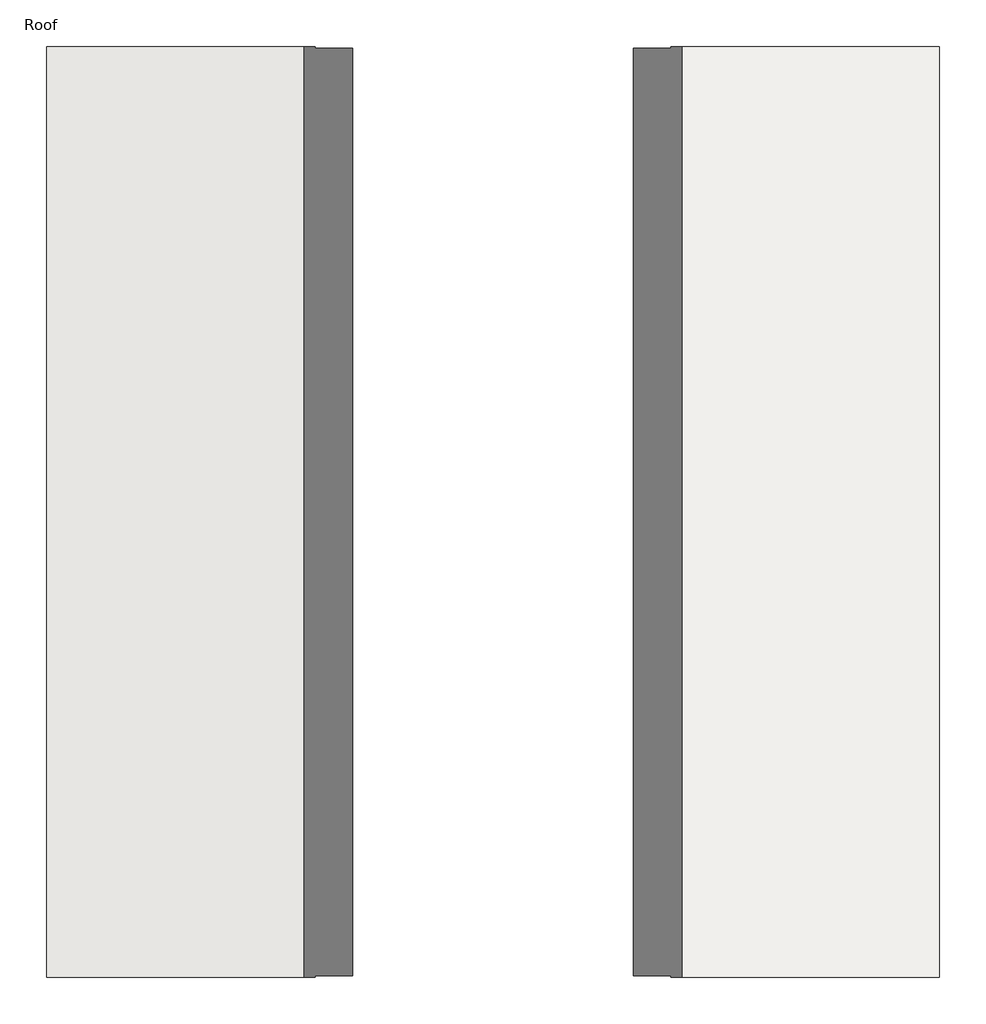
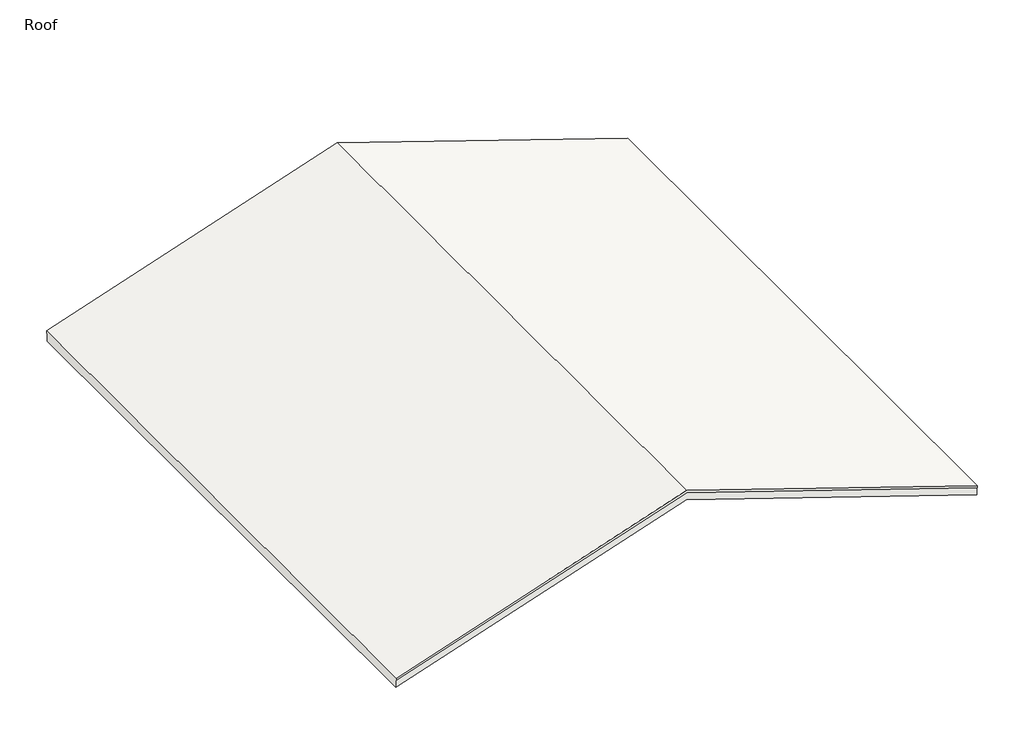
# One storey: 1 roof.
"""IFC4 building model written with IfcOpenShell, lengths in millimetres."""

import ifcopenshell
import ifcopenshell.guid

model = None  # the IFC model being written
_history = None  # IfcOwnerHistory: only IFC2X3 demands one
_inside = {}  # id of a spatial element -> (the spatial element, [elements in it])
_under = {}  # id of a project, library or spatial element -> (it, [spatial elements below it])
_declared = {}  # id of a project -> (the project, [libraries it declares])
_typed = {}  # id of a type object -> (the type object, [elements of that type])
_made_of = {}  # id of a material, layer set ... -> (it, [elements and type objects made of it])


def new_model(schema):
    """Start an empty IFC model of exactly this schema.

    Asked for "IFC4X3", IfcOpenShell would pick the latest addendum, in which some entities
    have other attributes; the version numbers below select the first issue.
    IFC2X3 requires an IfcOwnerHistory on every rooted entity: one is made here for all.
    """
    global model, _history
    if schema == "IFC4X3":
        model = ifcopenshell.file(schema_version=(4, 3, 0, 0))
    else:
        model = ifcopenshell.file(schema=schema)
    _inside.clear()
    _under.clear()
    _declared.clear()
    _typed.clear()
    _made_of.clear()
    _history = None
    if model.schema == "IFC2X3":
        org = make("IfcOrganization", Name="unknown")
        user = make(
            "IfcPersonAndOrganization",
            ThePerson=make("IfcPerson", FamilyName="unknown"),
            TheOrganization=org,
        )
        app = make(
            "IfcApplication",
            ApplicationDeveloper=org,
            Version="unknown",
            ApplicationFullName="unknown",
            ApplicationIdentifier="unknown",
        )
        _history = make(
            "IfcOwnerHistory",
            OwningUser=user,
            OwningApplication=app,
            ChangeAction="ADDED",
            CreationDate=0,
        )
    return model


def make(cls, **values):
    """One entity of the class cls with the attributes given. An attribute that is None is left unset."""
    return model.create_entity(
        cls, **{name: value for name, value in values.items() if value is not None}
    )


def rooted(cls, **values):
    """An entity with a GlobalId (a new one), such as an element, a storey or a relation."""
    return make(cls, GlobalId=ifcopenshell.guid.new(), OwnerHistory=_history, **values)


def si_unit(unit_type, name, prefix=None):
    """IfcSIUnit, for example si_unit("LENGTHUNIT", "METRE", prefix="MILLI")."""
    return make("IfcSIUnit", UnitType=unit_type, Prefix=prefix, Name=name)


def assignment(units):
    """IfcUnitAssignment: the units of a project."""
    return None if units is None else make("IfcUnitAssignment", Units=units)


def point(xyz):
    """IfcCartesianPoint."""
    return None if xyz is None else make("IfcCartesianPoint", Coordinates=xyz)


def direction(xyz):
    """IfcDirection."""
    return None if xyz is None else make("IfcDirection", DirectionRatios=xyz)


def frame(location, z_axis=None, x_axis=None):
    """IfcAxis2Placement3D, a coordinate frame: its origin and axes. An axis left out is left unset."""
    return make(
        "IfcAxis2Placement3D",
        Location=point(location),
        Axis=direction(z_axis),
        RefDirection=direction(x_axis),
    )


def origin():
    """The frame at (0, 0, 0) with its axes left unset."""
    return frame((0.0, 0.0, 0.0))


def place(relative_to, where):
    """IfcLocalPlacement: puts the frame where relative to a parent placement (None: the world)."""
    return make(
        "IfcLocalPlacement", PlacementRelTo=relative_to, RelativePlacement=where
    )


def context(
    kind, dimensions, precision=None, world=None, true_north=None, identifier=None
):
    """IfcGeometricRepresentationContext, for example the 3D "Model" context."""
    return make(
        "IfcGeometricRepresentationContext",
        ContextIdentifier=identifier,
        ContextType=kind,
        CoordinateSpaceDimension=dimensions,
        Precision=precision,
        WorldCoordinateSystem=world,
        TrueNorth=true_north,
    )


def project(units=None, contexts=None):
    """IfcProject with its units and contexts."""
    return rooted(
        "IfcProject",
        Name="project",
        RepresentationContexts=contexts,
        UnitsInContext=assignment(units),
    )


def spatial(cls, under=None, at=None, **own):
    """A site, building, storey or space (cls), placed at a placement, below another one or the project."""
    s = rooted(cls, ObjectPlacement=at, **own)
    if under is not None:
        _under.setdefault(under.id(), (under, []))[1].append(s)
    return s


def faces_of(points, faces, orient=None, outer=None):
    """IfcFace entities. A face is a list of loops; a loop is a list of indices into points, from 0.

    orient and outer hold one flag for each loop. By default every Orientation is true, the
    first loop of a face is its IfcFaceOuterBound and the others are IfcFaceBound.
    """
    made = []
    for i, loops in enumerate(faces):
        bounds = []
        for j, loop in enumerate(loops):
            is_outer = j == 0 if outer is None else outer[i][j]
            bounds.append(
                make(
                    "IfcFaceOuterBound" if is_outer else "IfcFaceBound",
                    Bound=make("IfcPolyLoop", Polygon=[points[k] for k in loop]),
                    Orientation=True if orient is None else orient[i][j],
                )
            )
        made.append(make("IfcFace", Bounds=bounds))
    return made


def faceted_brep(points, faces, orient=None, outer=None, voids=None):
    """IfcFacetedBrep: a solid bounded by flat faces; with voids (closed shells), ...WithVoids."""
    shared = [point(p) for p in points]
    hull = make("IfcClosedShell", CfsFaces=faces_of(shared, faces, orient, outer))
    if voids is None:
        return make("IfcFacetedBrep", Outer=hull)
    return make(
        "IfcFacetedBrepWithVoids",
        Outer=hull,
        Voids=[
            make(cls, CfsFaces=faces_of(shared, fs, o, b)) for cls, fs, o, b in voids
        ],
    )


def shape(context_of_items, identifier, shape_type, items):
    """IfcShapeRepresentation: the items that make up one representation, for example the "Body"."""
    return make(
        "IfcShapeRepresentation",
        ContextOfItems=context_of_items,
        RepresentationIdentifier=identifier,
        RepresentationType=shape_type,
        Items=items,
    )


def made_of(thing, what):
    """Note that an element or type object is made of a material, layer set ...; save() writes the relation."""
    if what is not None:
        _made_of.setdefault(what.id(), (what, []))[1].append(thing)
    return thing


def element(
    cls,
    number,
    at=None,
    inside=None,
    cuts=None,
    type_object=None,
    material=None,
    context=None,
    identifier="Body",
    shape_type=None,
    held_by="IfcProductDefinitionShape",
    body=None,
    shapes=None,
    **own,
):
    """One element of the class cls, such as IfcWall. Its Tag is "e" and its number.

    at: its placement. inside: the storey or other place that contains it. cuts: it is an
    opening in that element (IfcRelVoidsElement). A single representation is given by context,
    identifier, shape_type and body (its items); several are given by shapes. held_by: the class
    of the entity that holds the representations. save() writes the other relations.
    """
    e = rooted(cls, Tag="e%d" % number, ObjectPlacement=at, **own)
    if body is not None:
        shapes = [shape(context, identifier, shape_type, body)]
    if shapes is not None:
        e.Representation = make(held_by, Representations=shapes)
    if inside is not None:
        _inside.setdefault(inside.id(), (inside, []))[1].append(e)
    if cuts is not None:
        rooted(
            "IfcRelVoidsElement", RelatingBuildingElement=cuts, RelatedOpeningElement=e
        )
    if type_object is not None:
        _typed.setdefault(type_object.id(), (type_object, []))[1].append(e)
    return made_of(e, material)


def aggregate(whole, parts):
    """IfcRelAggregates: a whole, such as a stair, and the parts it consists of."""
    return rooted("IfcRelAggregates", RelatingObject=whole, RelatedObjects=parts)


def save(model, path):
    """Write the relations noted so far, then the file.

    IfcRelAggregates (storeys below a building ...), IfcRelContainedInSpatialStructure (elements
    in a storey), IfcRelDefinesByType, IfcRelAssociatesMaterial and IfcRelDeclares: one each for
    every whole, place, type object, material and project.
    """
    for whole, parts in _under.values():
        aggregate(whole, parts)
    for where, things in _inside.values():
        rooted(
            "IfcRelContainedInSpatialStructure",
            RelatedElements=things,
            RelatingStructure=where,
        )
    for kind, things in _typed.values():
        rooted("IfcRelDefinesByType", RelatedObjects=things, RelatingType=kind)
    for what, things in _made_of.values():
        rooted("IfcRelAssociatesMaterial", RelatedObjects=things, RelatingMaterial=what)
    for by, libraries in _declared.values():
        rooted("IfcRelDeclares", RelatingContext=by, RelatedDefinitions=libraries)
    model.write(path)


model = new_model("IFC4")

# Units and contexts
model_context = context("Model", 3, world=origin())
ifc_project = project(units=[si_unit("LENGTHUNIT", "METRE", prefix="MILLI")], contexts=[model_context])

# Site, building, storey
site = spatial("IfcSite", under=ifc_project)
building = spatial("IfcBuilding", under=site)
storey = spatial("IfcBuildingStorey", under=building, Name="Roof", Elevation=6096.0)

# Roof
placement = place(None, origin())
element("IfcRoof", 1, ObjectType="Wood Rafter 8\" - Asphalt Shingle - Insulated", at=placement, inside=storey, context=model_context, shape_type="Brep", body=[
    faceted_brep([(2636.1853665, 6439.2457618, 7940.675), (2636.1853665, -6313.1417382, 7940.675), (-3507.4396335, -6313.1417382, 5892.8), (-3507.4396335, 6439.2457618, 5892.8), (8779.8103665, 6439.2457618, 5892.8), (8779.8103665, -6313.1417382, 5892.8), (-3507.4396335, 6464.6457618, 6117.0318384), (-3507.4396335, -6338.5417382, 6117.0318384), (2636.1853665, -6338.5417382, 8164.9068384), (2636.1853665, 6464.6457618, 8164.9068384), (8779.8103665, -6338.5417382, 6117.0318384), (8779.8103665, 6464.6457618, 6117.0318384), (-3507.4396335, 6464.6457618, 6063.4839367), (-3507.4396335, 6439.2457618, 6063.4839367), (-3507.4396335, -6313.1417382, 6063.4839367), (-3507.4396335, -6338.5417382, 6063.4839367), (8779.8103665, -6338.5417382, 6063.4839367), (8779.8103665, -6313.1417382, 6063.4839367), (8779.8103665, 6439.2457618, 6063.4839367), (8779.8103665, 6464.6457618, 6063.4839367), (2636.1853665, 6464.6457618, 8111.3589367), (2636.1853665, -6338.5417382, 8111.3589367), (2636.1853665, -6313.1417382, 8111.3589367), (2636.1853665, 6439.2457618, 8111.3589367)], [[[0, 1, 2, 3]], [[1, 0, 4, 5]], [[6, 7, 8, 9]], [[9, 8, 10, 11]], [[7, 6, 12, 13, 3, 2, 14, 15]], [[11, 10, 16, 17, 5, 4, 18, 19]], [[6, 9, 11, 19, 20, 12]], [[8, 7, 15, 21, 16, 10]], [[22, 14, 2, 1, 5, 17]], [[22, 17, 16, 21]], [[14, 22, 21, 15]], [[13, 23, 18, 4, 0, 3]], [[18, 23, 20, 19]], [[23, 13, 12, 20]]]),
])

save(model, "model.ifc")
